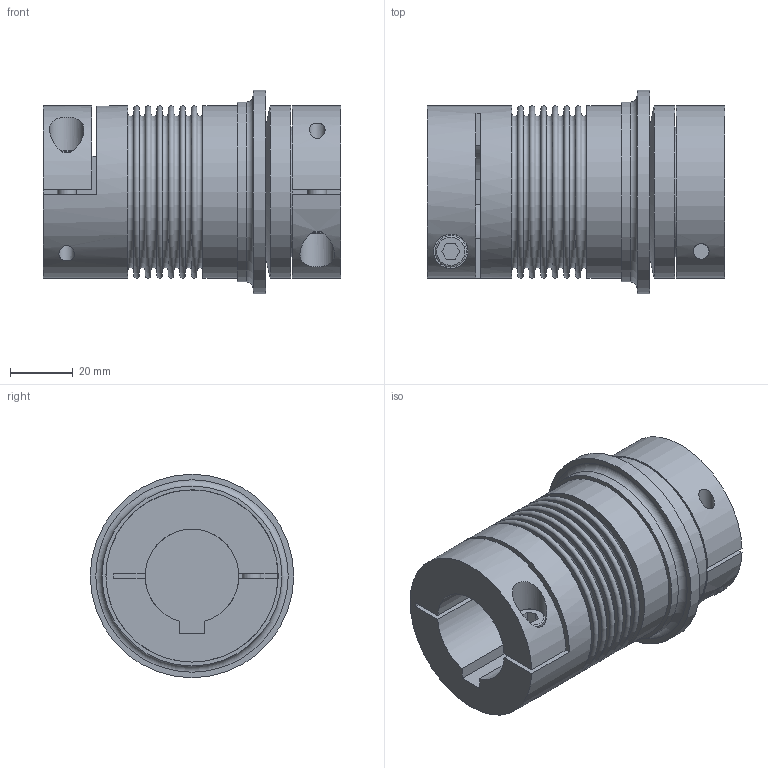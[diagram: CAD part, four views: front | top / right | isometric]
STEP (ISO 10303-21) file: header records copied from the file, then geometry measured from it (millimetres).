
FILE_DESCRIPTION(/* description */ ('STEP AP214'),/* implementation_level */ '2;1');
FILE_NAME(/* name */ 'C:\Diequa Files\DieQua Coupling\TB2\STP\TB2.30.95.WDG.#.#.stp',/* time_stamp */ '2019-04-26T10:41:59-05:00',/* author */ ('DiequaCAD'),/* organization */ (''),/* preprocessor_version */ 'ST-DEVELOPER v18',/* originating_system */ 'Autodesk Inventor 2020',/* authorisation */ ' ');
FILE_SCHEMA (('AUTOMOTIVE_DESIGN { 1 0 10303 214 3 1 1 }'));
Length unit declared in the file: millimetre
Products named in the file (1): TB2.30.95.WDG.#.#
Bounding box: 95 x 65 x 65 mm (x, y, z)
Volume: 178643.1 mm3; surface area: 42338.6 mm2
Topology: 1 solids, 1 shells, 98 faces, 232 edges, 164 vertices
Faces by surface type: plane 61, cylinder 20, torus 16, cone 1
Full cylindrical faces by diameter (mm): 5 x2, 6 x2, 6.6 x2, 10 x2, 11 x2, 41.5 x1, 55 x3, 57.5 x1, 65 x1
Entity records: 3121 total; most frequent: CARTESIAN_POINT 647, DIRECTION 547, ORIENTED_EDGE 464, EDGE_CURVE 232, AXIS2_PLACEMENT_3D 222, VERTEX_POINT 164, EDGE_LOOP 130, CIRCLE 123
